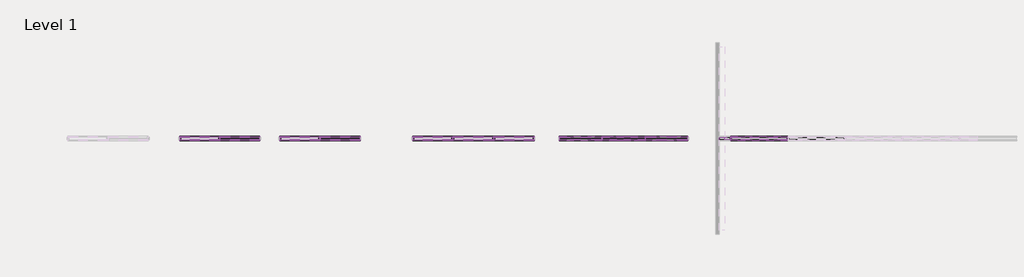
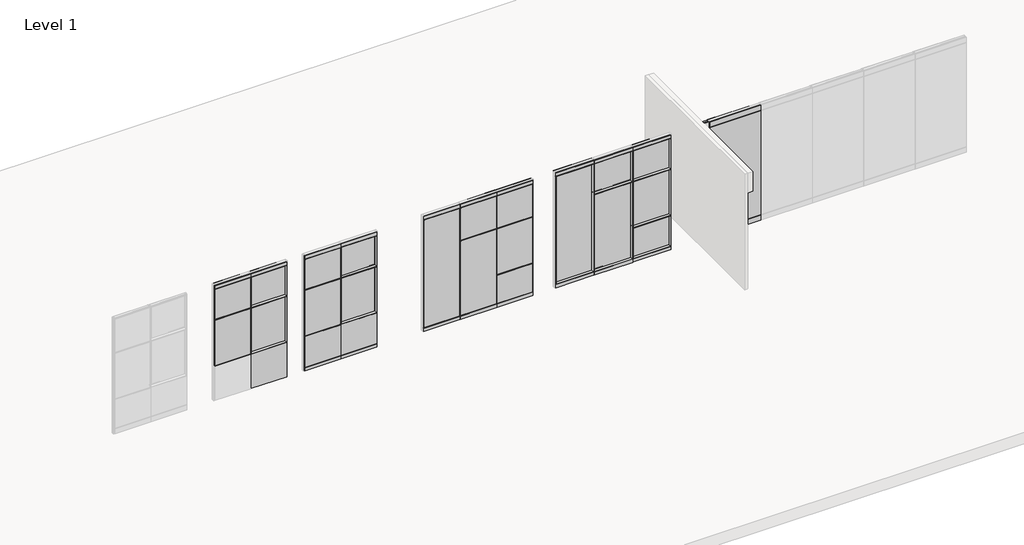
# One storey, part 12 of 22: 103 proxies.
"""IFC4 building model written with IfcOpenShell, lengths in millimetres."""

from ifc_helpers import new_model, si_unit, origin, place, context, project, spatial, transform, mapped, element, save
from components import fkc_8072fc11, fkn_5ed5fb2b, fascia_teknion_ceiling_and_base_fpb1_f6fada93, fascia_teknion_ceiling_and_base_fpb1_13b4bfed, fascia_teknion_ceiling_and_base_fpb1_c09701a2, fascia_teknion_ceiling_and_base_fpb1_836afdf3, fascia_teknion_ceiling_and_base_fpb1_db20a659, fascia_teknion_ceiling_and_base_fpb1_df58155e, fascia_teknion_ceiling_and_base_fpb1_1edef506, fascia_teknion_ceiling_and_base_fpb1_cd47c96b, fascia_teknion_ceiling_and_base_fpb1_2ed09321, fascia_teknion_ceiling_and_base_fpc_696d0f28, fascia_teknion_ceiling_and_base_fpc_aab47f0c, fascia_teknion_ceiling_and_base_fpc_957b990b, frame_teknion_horizontal_rail_5872ae1a, frame_teknion_horizontal_rail_46ee653b, frame_teknion_horizontal_rail_d9ddab7f, frame_teknion_horizontal_rail_74d06c48, frame_teknion_horizontal_rail_96f289ab, frame_teknion_horizontal_rail_84c226ef, full_84ced3e5, full_de6f7fca, full_double_glass_8244c30e, full_single_78f033fe, glass_fascia_d2a417b3, glass_fascia_74ba01bb, level_i_double_glass_59891672, level_i_single_glass_8a8042db, level_ii_d7c51a2e, level_ii_6986000c, level_ii_double_glass_cfeb0c75, level_ii_single_glass_14cafb3b, level_iii_double_glass_eeb2d2af, level_iii_single_glass_caffbde7, working_wall_monolithic_level_i_ddf61f7f, panel_fascia_teknion_mid_glass_level_i_f6f85d3a, working_wall_monolithic_level_i_49ea217e, panel_fascia_teknion_mid_glass_level_i_feadc1fd, segmented_level_i_double_glass_e7056d44, segmented_level_i_single_glass_277fe04a, segmented_level_ii_double_glass_1e1767e1, segmented_level_ii_single_glass_8e03ea76

model = new_model("IFC4")

# Units and contexts
model_context = context("Model", 3, world=origin())
ifc_project = project(units=[si_unit("LENGTHUNIT", "METRE", prefix="MILLI")], contexts=[model_context])

# Site, building, storey
site = spatial("IfcSite", under=ifc_project)
building = spatial("IfcBuilding", under=site)
storey = spatial("IfcBuildingStorey", under=building, Name="Level 1", Elevation=0.0)

# Proxies
placement = place(None, origin())
fkc_shape = fkc_8072fc11(model_context)
element("IfcBuildingElementProxy", 1, Name="Frame-Teknion-Altos-Base_Channel : FKC", ObjectType="Frame-Teknion-Altos-Base_Channel : FKC", at=placement, inside=storey, context=model_context, shape_type="MappedRepresentation", body=[
    mapped(fkc_shape, transform((3297.291666, 1812.351065, 0.0), x_axis=(-1.0, 0.0, 0.0), y_axis=(0.0, -1.0, 0.0), z_axis=(0.0, 0.0, 1.0))),
])
fkn_shape = fkn_5ed5fb2b(model_context)
element("IfcBuildingElementProxy", 2, Name="Frame-Teknion-Altos-Ceiling_Channel : FKN", ObjectType="Frame-Teknion-Altos-Ceiling_Channel : FKN", at=placement, inside=storey, context=model_context, shape_type="MappedRepresentation", body=[
    mapped(fkn_shape, transform((3360.791666, 1812.351065, 3048.0), x_axis=(-1.0, 0.0, 0.0), y_axis=(0.0, -1.0, 0.0), z_axis=(0.0, 0.0, 1.0))),
])
fascia_teknion_ceiling_and_base_fpb1_shape = fascia_teknion_ceiling_and_base_fpb1_f6fada93(model_context)
element("IfcBuildingElementProxy", 3, Name="Fascia-Teknion-Ceiling_and_Base : FPB1", ObjectType="Fascia-Teknion-Ceiling_and_Base : FPB1", at=placement, inside=storey, context=model_context, shape_type="MappedRepresentation", body=[
    mapped(fascia_teknion_ceiling_and_base_fpb1_shape, transform((4069.4615879, 1843.3402105, 15.875), x_axis=(1.0, 0.0, 0.0), y_axis=(0.0, 1.0, 0.0), z_axis=(0.0, 0.0, 1.0))),
])
fascia_teknion_ceiling_and_base_fpb1_2_shape = fascia_teknion_ceiling_and_base_fpb1_13b4bfed(model_context)
element("IfcBuildingElementProxy", 4, Name="Fascia-Teknion-Ceiling_and_Base : FPB1", ObjectType="Fascia-Teknion-Ceiling_and_Base : FPB1", at=placement, inside=storey, context=model_context, shape_type="MappedRepresentation", body=[
    mapped(fascia_teknion_ceiling_and_base_fpb1_2_shape, transform((4069.4615879, 1781.3642105, 15.875), x_axis=(1.0, 0.0, 0.0), y_axis=(0.0, 1.0, 0.0), z_axis=(0.0, 0.0, 1.0))),
])
fascia_teknion_ceiling_and_base_fpb1_3_shape = fascia_teknion_ceiling_and_base_fpb1_c09701a2(model_context)
element("IfcBuildingElementProxy", 5, Name="Fascia-Teknion-Ceiling_and_Base : FPB1", ObjectType="Fascia-Teknion-Ceiling_and_Base : FPB1", at=placement, inside=storey, context=model_context, shape_type="MappedRepresentation", body=[
    mapped(fascia_teknion_ceiling_and_base_fpb1_3_shape, transform((-6180.501085, 1862.357315, 15.875), x_axis=(1.0, 0.0, 0.0), y_axis=(0.0, 1.0, 0.0), z_axis=(0.0, 0.0, 1.0))),
])
element("IfcBuildingElementProxy", 6, Name="Fascia-Teknion-Ceiling_and_Base : FPB1", ObjectType="Fascia-Teknion-Ceiling_and_Base : FPB1", at=placement, inside=storey, context=model_context, shape_type="MappedRepresentation", body=[
    mapped(fascia_teknion_ceiling_and_base_fpb1_3_shape, transform((-5280.0909288, 1862.357315, 15.875), x_axis=(1.0, 0.0, 0.0), y_axis=(0.0, 1.0, 0.0), z_axis=(0.0, 0.0, 1.0))),
])
fascia_teknion_ceiling_and_base_fpb1_4_shape = fascia_teknion_ceiling_and_base_fpb1_836afdf3(model_context)
element("IfcBuildingElementProxy", 7, Name="Fascia-Teknion-Ceiling_and_Base : FPB1", ObjectType="Fascia-Teknion-Ceiling_and_Base : FPB1", at=placement, inside=storey, context=model_context, shape_type="MappedRepresentation", body=[
    mapped(fascia_teknion_ceiling_and_base_fpb1_4_shape, transform((-3216.5184902, 1762.344815, 15.875), x_axis=(1.0, 0.0, 0.0), y_axis=(0.0, 1.0, 0.0), z_axis=(0.0, 0.0, 1.0))),
])
element("IfcBuildingElementProxy", 8, Name="Fascia-Teknion-Ceiling_and_Base : FPB1", ObjectType="Fascia-Teknion-Ceiling_and_Base : FPB1", at=placement, inside=storey, context=model_context, shape_type="MappedRepresentation", body=[
    mapped(fascia_teknion_ceiling_and_base_fpb1_4_shape, transform((-3216.5184902, 1862.357315, 15.875), x_axis=(-1.0, 0.0, 0.0), y_axis=(0.0, -1.0, 0.0), z_axis=(0.0, 0.0, 1.0))),
])
element("IfcBuildingElementProxy", 9, Name="Fascia-Teknion-Ceiling_and_Base : FPB1", ObjectType="Fascia-Teknion-Ceiling_and_Base : FPB1", at=placement, inside=storey, context=model_context, shape_type="MappedRepresentation", body=[
    mapped(fascia_teknion_ceiling_and_base_fpb1_4_shape, transform((-1401.708334, 1762.344815, 15.875), x_axis=(1.0, 0.0, 0.0), y_axis=(0.0, 1.0, 0.0), z_axis=(0.0, 0.0, 1.0))),
])
element("IfcBuildingElementProxy", 10, Name="Fascia-Teknion-Ceiling_and_Base : FPB1", ObjectType="Fascia-Teknion-Ceiling_and_Base : FPB1", at=placement, inside=storey, context=model_context, shape_type="MappedRepresentation", body=[
    mapped(fascia_teknion_ceiling_and_base_fpb1_4_shape, transform((-1401.708334, 1862.357315, 15.875), x_axis=(-1.0, 0.0, 0.0), y_axis=(0.0, -1.0, 0.0), z_axis=(0.0, 0.0, 1.0))),
])
fascia_teknion_ceiling_and_base_fpb1_5_shape = fascia_teknion_ceiling_and_base_fpb1_db20a659(model_context)
element("IfcBuildingElementProxy", 11, Name="Fascia-Teknion-Ceiling_and_Base : FPB1", ObjectType="Fascia-Teknion-Ceiling_and_Base : FPB1", at=placement, inside=storey, context=model_context, shape_type="MappedRepresentation", body=[
    mapped(fascia_teknion_ceiling_and_base_fpb1_5_shape, transform((1043.6865879, 1762.344815, 15.875), x_axis=(1.0, 0.0, 0.0), y_axis=(0.0, 1.0, 0.0), z_axis=(0.0, 0.0, 1.0))),
])
element("IfcBuildingElementProxy", 12, Name="Fascia-Teknion-Ceiling_and_Base : FPB1", ObjectType="Fascia-Teknion-Ceiling_and_Base : FPB1", at=placement, inside=storey, context=model_context, shape_type="MappedRepresentation", body=[
    mapped(fascia_teknion_ceiling_and_base_fpb1_5_shape, transform((1043.6865879, 1862.357315, 15.875), x_axis=(-1.0, 0.0, 0.0), y_axis=(0.0, -1.0, 0.0), z_axis=(0.0, 0.0, 1.0))),
])
fascia_teknion_ceiling_and_base_fpb1_6_shape = fascia_teknion_ceiling_and_base_fpb1_df58155e(model_context)
element("IfcBuildingElementProxy", 13, Name="Fascia-Teknion-Ceiling_and_Base : FPB1", ObjectType="Fascia-Teknion-Ceiling_and_Base : FPB1", at=placement, inside=storey, context=model_context, shape_type="MappedRepresentation", body=[
    mapped(fascia_teknion_ceiling_and_base_fpb1_6_shape, transform((85.4815098, 1762.344815, 15.875), x_axis=(1.0, 0.0, 0.0), y_axis=(0.0, 1.0, 0.0), z_axis=(0.0, 0.0, 1.0))),
])
element("IfcBuildingElementProxy", 14, Name="Fascia-Teknion-Ceiling_and_Base : FPB1", ObjectType="Fascia-Teknion-Ceiling_and_Base : FPB1", at=placement, inside=storey, context=model_context, shape_type="MappedRepresentation", body=[
    mapped(fascia_teknion_ceiling_and_base_fpb1_6_shape, transform((85.4815098, 1862.357315, 15.875), x_axis=(-1.0, 0.0, 0.0), y_axis=(0.0, -1.0, 0.0), z_axis=(0.0, 0.0, 1.0))),
])
element("IfcBuildingElementProxy", 15, Name="Fascia-Teknion-Ceiling_and_Base : FPB1", ObjectType="Fascia-Teknion-Ceiling_and_Base : FPB1", at=placement, inside=storey, context=model_context, shape_type="MappedRepresentation", body=[
    mapped(fascia_teknion_ceiling_and_base_fpb1_6_shape, transform((2001.891666, 1762.344815, 15.875), x_axis=(1.0, 0.0, 0.0), y_axis=(0.0, 1.0, 0.0), z_axis=(0.0, 0.0, 1.0))),
])
element("IfcBuildingElementProxy", 16, Name="Fascia-Teknion-Ceiling_and_Base : FPB1", ObjectType="Fascia-Teknion-Ceiling_and_Base : FPB1", at=placement, inside=storey, context=model_context, shape_type="MappedRepresentation", body=[
    mapped(fascia_teknion_ceiling_and_base_fpb1_6_shape, transform((2001.891666, 1862.357315, 15.875), x_axis=(-1.0, 0.0, 0.0), y_axis=(0.0, -1.0, 0.0), z_axis=(0.0, 0.0, 1.0))),
])
fascia_teknion_ceiling_and_base_fpb1_7_shape = fascia_teknion_ceiling_and_base_fpb1_1edef506(model_context)
element("IfcBuildingElementProxy", 17, Name="Fascia-Teknion-Ceiling_and_Base : FPB1", ObjectType="Fascia-Teknion-Ceiling_and_Base : FPB1", at=placement, inside=storey, context=model_context, shape_type="MappedRepresentation", body=[
    mapped(fascia_teknion_ceiling_and_base_fpb1_7_shape, transform((-2309.1134121, 1762.344815, 15.875), x_axis=(1.0, 0.0, 0.0), y_axis=(0.0, 1.0, 0.0), z_axis=(0.0, 0.0, 1.0))),
])
element("IfcBuildingElementProxy", 18, Name="Fascia-Teknion-Ceiling_and_Base : FPB1", ObjectType="Fascia-Teknion-Ceiling_and_Base : FPB1", at=placement, inside=storey, context=model_context, shape_type="MappedRepresentation", body=[
    mapped(fascia_teknion_ceiling_and_base_fpb1_7_shape, transform((-2309.1134121, 1862.357315, 15.875), x_axis=(-1.0, 0.0, 0.0), y_axis=(0.0, -1.0, 0.0), z_axis=(0.0, 0.0, 1.0))),
])
fascia_teknion_ceiling_and_base_fpb1_8_shape = fascia_teknion_ceiling_and_base_fpb1_cd47c96b(model_context)
element("IfcBuildingElementProxy", 19, Name="Fascia-Teknion-Ceiling_and_Base : FPB1", ObjectType="Fascia-Teknion-Ceiling_and_Base : FPB1", at=placement, inside=storey, context=model_context, shape_type="MappedRepresentation", body=[
    mapped(fascia_teknion_ceiling_and_base_fpb1_8_shape, transform((-6180.501085, 1762.344815, 15.875), x_axis=(1.0, 0.0, 0.0), y_axis=(0.0, 1.0, 0.0), z_axis=(0.0, 0.0, 1.0))),
])
element("IfcBuildingElementProxy", 20, Name="Fascia-Teknion-Ceiling_and_Base : FPB1", ObjectType="Fascia-Teknion-Ceiling_and_Base : FPB1", at=placement, inside=storey, context=model_context, shape_type="MappedRepresentation", body=[
    mapped(fascia_teknion_ceiling_and_base_fpb1_8_shape, transform((-5280.0909288, 1762.344815, 15.875), x_axis=(1.0, 0.0, 0.0), y_axis=(0.0, 1.0, 0.0), z_axis=(0.0, 0.0, 1.0))),
])
element("IfcBuildingElementProxy", 21, Name="Fascia-Teknion-Ceiling_and_Base : FPC", ObjectType="Fascia-Teknion-Ceiling_and_Base : FPC", at=placement, inside=storey, context=model_context, shape_type="MappedRepresentation", body=[
    mapped(fascia_teknion_ceiling_and_base_fpb1_shape, transform((4069.4615879, 1843.3402105, 2900.045), x_axis=(1.0, 0.0, 0.0), y_axis=(0.0, 1.0, 0.0), z_axis=(0.0, 0.0, 1.0))),
])
element("IfcBuildingElementProxy", 22, Name="Fascia-Teknion-Ceiling_and_Base : FPC", ObjectType="Fascia-Teknion-Ceiling_and_Base : FPC", at=placement, inside=storey, context=model_context, shape_type="MappedRepresentation", body=[
    mapped(fascia_teknion_ceiling_and_base_fpb1_2_shape, transform((4069.4615879, 1781.3642105, 2900.045), x_axis=(1.0, 0.0, 0.0), y_axis=(0.0, 1.0, 0.0), z_axis=(0.0, 0.0, 1.0))),
])
element("IfcBuildingElementProxy", 23, Name="Fascia-Teknion-Ceiling_and_Base : FPC", ObjectType="Fascia-Teknion-Ceiling_and_Base : FPC", at=placement, inside=storey, context=model_context, shape_type="MappedRepresentation", body=[
    mapped(fascia_teknion_ceiling_and_base_fpb1_4_shape, transform((-3216.5184902, 1762.344815, 2950.845), x_axis=(1.0, 0.0, 0.0), y_axis=(0.0, 1.0, 0.0), z_axis=(0.0, 0.0, 1.0))),
])
element("IfcBuildingElementProxy", 24, Name="Fascia-Teknion-Ceiling_and_Base : FPC", ObjectType="Fascia-Teknion-Ceiling_and_Base : FPC", at=placement, inside=storey, context=model_context, shape_type="MappedRepresentation", body=[
    mapped(fascia_teknion_ceiling_and_base_fpb1_4_shape, transform((-1401.708334, 1762.344815, 2950.845), x_axis=(1.0, 0.0, 0.0), y_axis=(0.0, 1.0, 0.0), z_axis=(0.0, 0.0, 1.0))),
])
fascia_teknion_ceiling_and_base_fpb1_9_shape = fascia_teknion_ceiling_and_base_fpb1_2ed09321(model_context)
element("IfcBuildingElementProxy", 25, Name="Fascia-Teknion-Ceiling_and_Base : FPC", ObjectType="Fascia-Teknion-Ceiling_and_Base : FPC", at=placement, inside=storey, context=model_context, shape_type="MappedRepresentation", body=[
    mapped(fascia_teknion_ceiling_and_base_fpb1_9_shape, transform((-3216.5184902, 1862.357315, 2950.845), x_axis=(1.0, 0.0, 0.0), y_axis=(0.0, 1.0, 0.0), z_axis=(0.0, 0.0, 1.0))),
])
element("IfcBuildingElementProxy", 26, Name="Fascia-Teknion-Ceiling_and_Base : FPC", ObjectType="Fascia-Teknion-Ceiling_and_Base : FPC", at=placement, inside=storey, context=model_context, shape_type="MappedRepresentation", body=[
    mapped(fascia_teknion_ceiling_and_base_fpb1_9_shape, transform((-1401.708334, 1862.357315, 2950.845), x_axis=(1.0, 0.0, 0.0), y_axis=(0.0, 1.0, 0.0), z_axis=(0.0, 0.0, 1.0))),
])
element("IfcBuildingElementProxy", 27, Name="Fascia-Teknion-Ceiling_and_Base : FPC", ObjectType="Fascia-Teknion-Ceiling_and_Base : FPC", at=placement, inside=storey, context=model_context, shape_type="MappedRepresentation", body=[
    mapped(fascia_teknion_ceiling_and_base_fpb1_3_shape, transform((-6180.501085, 1862.357315, 2950.845), x_axis=(1.0, 0.0, 0.0), y_axis=(0.0, 1.0, 0.0), z_axis=(0.0, 0.0, 1.0))),
])
element("IfcBuildingElementProxy", 28, Name="Fascia-Teknion-Ceiling_and_Base : FPC", ObjectType="Fascia-Teknion-Ceiling_and_Base : FPC", at=placement, inside=storey, context=model_context, shape_type="MappedRepresentation", body=[
    mapped(fascia_teknion_ceiling_and_base_fpb1_3_shape, transform((-5280.0909288, 1862.357315, 2950.845), x_axis=(1.0, 0.0, 0.0), y_axis=(0.0, 1.0, 0.0), z_axis=(0.0, 0.0, 1.0))),
])
element("IfcBuildingElementProxy", 29, Name="Fascia-Teknion-Ceiling_and_Base : FPC", ObjectType="Fascia-Teknion-Ceiling_and_Base : FPC", at=placement, inside=storey, context=model_context, shape_type="MappedRepresentation", body=[
    mapped(fascia_teknion_ceiling_and_base_fpb1_3_shape, transform((-8415.701085, 1862.357315, 2950.845), x_axis=(1.0, 0.0, 0.0), y_axis=(0.0, 1.0, 0.0), z_axis=(0.0, 0.0, 1.0))),
])
element("IfcBuildingElementProxy", 30, Name="Fascia-Teknion-Ceiling_and_Base : FPC", ObjectType="Fascia-Teknion-Ceiling_and_Base : FPC", at=placement, inside=storey, context=model_context, shape_type="MappedRepresentation", body=[
    mapped(fascia_teknion_ceiling_and_base_fpb1_3_shape, transform((-7515.2909288, 1862.357315, 2950.845), x_axis=(1.0, 0.0, 0.0), y_axis=(0.0, 1.0, 0.0), z_axis=(0.0, 0.0, 1.0))),
])
element("IfcBuildingElementProxy", 31, Name="Fascia-Teknion-Ceiling_and_Base : FPC", ObjectType="Fascia-Teknion-Ceiling_and_Base : FPC", at=placement, inside=storey, context=model_context, shape_type="MappedRepresentation", body=[
    mapped(fascia_teknion_ceiling_and_base_fpb1_8_shape, transform((-6180.501085, 1762.344815, 2950.845), x_axis=(1.0, 0.0, 0.0), y_axis=(0.0, 1.0, 0.0), z_axis=(0.0, 0.0, 1.0))),
])
element("IfcBuildingElementProxy", 32, Name="Fascia-Teknion-Ceiling_and_Base : FPC", ObjectType="Fascia-Teknion-Ceiling_and_Base : FPC", at=placement, inside=storey, context=model_context, shape_type="MappedRepresentation", body=[
    mapped(fascia_teknion_ceiling_and_base_fpb1_8_shape, transform((-5280.0909288, 1762.344815, 2950.845), x_axis=(1.0, 0.0, 0.0), y_axis=(0.0, 1.0, 0.0), z_axis=(0.0, 0.0, 1.0))),
])
element("IfcBuildingElementProxy", 33, Name="Fascia-Teknion-Ceiling_and_Base : FPC", ObjectType="Fascia-Teknion-Ceiling_and_Base : FPC", at=placement, inside=storey, context=model_context, shape_type="MappedRepresentation", body=[
    mapped(fascia_teknion_ceiling_and_base_fpb1_8_shape, transform((-8415.701085, 1762.344815, 2950.845), x_axis=(1.0, 0.0, 0.0), y_axis=(0.0, 1.0, 0.0), z_axis=(0.0, 0.0, 1.0))),
])
element("IfcBuildingElementProxy", 34, Name="Fascia-Teknion-Ceiling_and_Base : FPC", ObjectType="Fascia-Teknion-Ceiling_and_Base : FPC", at=placement, inside=storey, context=model_context, shape_type="MappedRepresentation", body=[
    mapped(fascia_teknion_ceiling_and_base_fpb1_8_shape, transform((-7515.2909288, 1762.344815, 2950.845), x_axis=(1.0, 0.0, 0.0), y_axis=(0.0, 1.0, 0.0), z_axis=(0.0, 0.0, 1.0))),
])
element("IfcBuildingElementProxy", 35, Name="Fascia-Teknion-Ceiling_and_Base : FPC", ObjectType="Fascia-Teknion-Ceiling_and_Base : FPC", at=placement, inside=storey, context=model_context, shape_type="MappedRepresentation", body=[
    mapped(fascia_teknion_ceiling_and_base_fpb1_5_shape, transform((1043.6865879, 1762.344815, 2950.845), x_axis=(1.0, 0.0, 0.0), y_axis=(0.0, 1.0, 0.0), z_axis=(0.0, 0.0, 1.0))),
])
fascia_teknion_ceiling_and_base_fpc_shape = fascia_teknion_ceiling_and_base_fpc_696d0f28(model_context)
element("IfcBuildingElementProxy", 36, Name="Fascia-Teknion-Ceiling_and_Base : FPC", ObjectType="Fascia-Teknion-Ceiling_and_Base : FPC", at=placement, inside=storey, context=model_context, shape_type="MappedRepresentation", body=[
    mapped(fascia_teknion_ceiling_and_base_fpc_shape, transform((1043.6865879, 1862.357315, 2950.845), x_axis=(1.0, 0.0, 0.0), y_axis=(0.0, 1.0, 0.0), z_axis=(0.0, 0.0, 1.0))),
])
element("IfcBuildingElementProxy", 37, Name="Fascia-Teknion-Ceiling_and_Base : FPC", ObjectType="Fascia-Teknion-Ceiling_and_Base : FPC", at=placement, inside=storey, context=model_context, shape_type="MappedRepresentation", body=[
    mapped(fascia_teknion_ceiling_and_base_fpb1_6_shape, transform((85.4815098, 1762.344815, 2950.845), x_axis=(1.0, 0.0, 0.0), y_axis=(0.0, 1.0, 0.0), z_axis=(0.0, 0.0, 1.0))),
])
element("IfcBuildingElementProxy", 38, Name="Fascia-Teknion-Ceiling_and_Base : FPC", ObjectType="Fascia-Teknion-Ceiling_and_Base : FPC", at=placement, inside=storey, context=model_context, shape_type="MappedRepresentation", body=[
    mapped(fascia_teknion_ceiling_and_base_fpb1_6_shape, transform((2001.891666, 1762.344815, 2950.845), x_axis=(1.0, 0.0, 0.0), y_axis=(0.0, 1.0, 0.0), z_axis=(0.0, 0.0, 1.0))),
])
fascia_teknion_ceiling_and_base_fpc_2_shape = fascia_teknion_ceiling_and_base_fpc_aab47f0c(model_context)
element("IfcBuildingElementProxy", 39, Name="Fascia-Teknion-Ceiling_and_Base : FPC", ObjectType="Fascia-Teknion-Ceiling_and_Base : FPC", at=placement, inside=storey, context=model_context, shape_type="MappedRepresentation", body=[
    mapped(fascia_teknion_ceiling_and_base_fpc_2_shape, transform((85.4815098, 1862.357315, 2950.845), x_axis=(1.0, 0.0, 0.0), y_axis=(0.0, 1.0, 0.0), z_axis=(0.0, 0.0, 1.0))),
])
element("IfcBuildingElementProxy", 40, Name="Fascia-Teknion-Ceiling_and_Base : FPC", ObjectType="Fascia-Teknion-Ceiling_and_Base : FPC", at=placement, inside=storey, context=model_context, shape_type="MappedRepresentation", body=[
    mapped(fascia_teknion_ceiling_and_base_fpc_2_shape, transform((2001.891666, 1862.357315, 2950.845), x_axis=(1.0, 0.0, 0.0), y_axis=(0.0, 1.0, 0.0), z_axis=(0.0, 0.0, 1.0))),
])
element("IfcBuildingElementProxy", 41, Name="Fascia-Teknion-Ceiling_and_Base : FPC", ObjectType="Fascia-Teknion-Ceiling_and_Base : FPC", at=placement, inside=storey, context=model_context, shape_type="MappedRepresentation", body=[
    mapped(fascia_teknion_ceiling_and_base_fpb1_7_shape, transform((-2309.1134121, 1762.344815, 2950.845), x_axis=(1.0, 0.0, 0.0), y_axis=(0.0, 1.0, 0.0), z_axis=(0.0, 0.0, 1.0))),
])
fascia_teknion_ceiling_and_base_fpc_3_shape = fascia_teknion_ceiling_and_base_fpc_957b990b(model_context)
element("IfcBuildingElementProxy", 42, Name="Fascia-Teknion-Ceiling_and_Base : FPC", ObjectType="Fascia-Teknion-Ceiling_and_Base : FPC", at=placement, inside=storey, context=model_context, shape_type="MappedRepresentation", body=[
    mapped(fascia_teknion_ceiling_and_base_fpc_3_shape, transform((-2309.1134121, 1862.357315, 2950.845), x_axis=(1.0, 0.0, 0.0), y_axis=(0.0, 1.0, 0.0), z_axis=(0.0, 0.0, 1.0))),
])
frame_teknion_horizontal_rail_shape = frame_teknion_horizontal_rail_5872ae1a(model_context)
element("IfcBuildingElementProxy", 43, Name="Frame-Teknion-Horizontal_Rail : FPKK", ObjectType="Frame-Teknion-Horizontal_Rail : FPKK", at=placement, inside=storey, context=model_context, shape_type="MappedRepresentation", body=[
    mapped(frame_teknion_horizontal_rail_shape, transform((-3216.5184902, 1812.351065, 100.33), x_axis=(1.0, 0.0, 0.0), y_axis=(0.0, 1.0, 0.0), z_axis=(0.0, 0.0, 1.0))),
])
element("IfcBuildingElementProxy", 44, Name="Frame-Teknion-Horizontal_Rail : FPKK", ObjectType="Frame-Teknion-Horizontal_Rail : FPKK", at=placement, inside=storey, context=model_context, shape_type="MappedRepresentation", body=[
    mapped(frame_teknion_horizontal_rail_shape, transform((-3216.5184902, 1812.351065, 2947.67), x_axis=(1.0, 0.0, 0.0), y_axis=(0.0, 1.0, 0.0), z_axis=(0.0, 0.0, 1.0))),
])
element("IfcBuildingElementProxy", 45, Name="Frame-Teknion-Horizontal_Rail : FPKK", ObjectType="Frame-Teknion-Horizontal_Rail : FPKK", at=placement, inside=storey, context=model_context, shape_type="MappedRepresentation", body=[
    mapped(frame_teknion_horizontal_rail_shape, transform((-1401.708334, 1812.351065, 100.33), x_axis=(1.0, 0.0, 0.0), y_axis=(0.0, 1.0, 0.0), z_axis=(0.0, 0.0, 1.0))),
])
element("IfcBuildingElementProxy", 46, Name="Frame-Teknion-Horizontal_Rail : FPKK", ObjectType="Frame-Teknion-Horizontal_Rail : FPKK", at=placement, inside=storey, context=model_context, shape_type="MappedRepresentation", body=[
    mapped(frame_teknion_horizontal_rail_shape, transform((-1401.708334, 1812.351065, 862.33), x_axis=(1.0, 0.0, 0.0), y_axis=(0.0, 1.0, 0.0), z_axis=(0.0, 0.0, 1.0))),
])
element("IfcBuildingElementProxy", 47, Name="Frame-Teknion-Horizontal_Rail : FPKK", ObjectType="Frame-Teknion-Horizontal_Rail : FPKK", at=placement, inside=storey, context=model_context, shape_type="MappedRepresentation", body=[
    mapped(frame_teknion_horizontal_rail_shape, transform((-1401.708334, 1812.351065, 2081.53), x_axis=(1.0, 0.0, 0.0), y_axis=(0.0, 1.0, 0.0), z_axis=(0.0, 0.0, 1.0))),
])
element("IfcBuildingElementProxy", 48, Name="Frame-Teknion-Horizontal_Rail : FPKK", ObjectType="Frame-Teknion-Horizontal_Rail : FPKK", at=placement, inside=storey, context=model_context, shape_type="MappedRepresentation", body=[
    mapped(frame_teknion_horizontal_rail_shape, transform((-1401.708334, 1812.351065, 2947.67), x_axis=(1.0, 0.0, 0.0), y_axis=(0.0, 1.0, 0.0), z_axis=(0.0, 0.0, 1.0))),
])
element("IfcBuildingElementProxy", 49, Name="Frame-Teknion-Horizontal_Rail : FPKK", ObjectType="Frame-Teknion-Horizontal_Rail : FPKK", at=placement, inside=storey, context=model_context, shape_type="MappedRepresentation", body=[
    mapped(frame_teknion_horizontal_rail_shape, transform((-8415.701085, 1812.351065, 2136.775), x_axis=(1.0, 0.0, 0.0), y_axis=(0.0, 1.0, 0.0), z_axis=(0.0, 0.0, 1.0))),
])
element("IfcBuildingElementProxy", 50, Name="Frame-Teknion-Horizontal_Rail : FPKK", ObjectType="Frame-Teknion-Horizontal_Rail : FPKK", at=placement, inside=storey, context=model_context, shape_type="MappedRepresentation", body=[
    mapped(frame_teknion_horizontal_rail_shape, transform((-6180.501085, 1812.351065, 917.575), x_axis=(1.0, 0.0, 0.0), y_axis=(0.0, 1.0, 0.0), z_axis=(0.0, 0.0, 1.0))),
])
element("IfcBuildingElementProxy", 51, Name="Frame-Teknion-Horizontal_Rail : FPKK", ObjectType="Frame-Teknion-Horizontal_Rail : FPKK", at=placement, inside=storey, context=model_context, shape_type="MappedRepresentation", body=[
    mapped(frame_teknion_horizontal_rail_shape, transform((-6180.501085, 1812.351065, 2136.775), x_axis=(1.0, 0.0, 0.0), y_axis=(0.0, 1.0, 0.0), z_axis=(0.0, 0.0, 1.0))),
])
element("IfcBuildingElementProxy", 52, Name="Frame-Teknion-Horizontal_Rail : FPKK", ObjectType="Frame-Teknion-Horizontal_Rail : FPKK", at=placement, inside=storey, context=model_context, shape_type="MappedRepresentation", body=[
    mapped(frame_teknion_horizontal_rail_shape, transform((-7515.2909288, 1812.351065, 917.575), x_axis=(1.0, 0.0, 0.0), y_axis=(0.0, 1.0, 0.0), z_axis=(0.0, 0.0, 1.0))),
])
element("IfcBuildingElementProxy", 53, Name="Frame-Teknion-Horizontal_Rail : FPKK", ObjectType="Frame-Teknion-Horizontal_Rail : FPKK", at=placement, inside=storey, context=model_context, shape_type="MappedRepresentation", body=[
    mapped(frame_teknion_horizontal_rail_shape, transform((-7515.2909288, 1812.351065, 2136.775), x_axis=(1.0, 0.0, 0.0), y_axis=(0.0, 1.0, 0.0), z_axis=(0.0, 0.0, 1.0))),
])
element("IfcBuildingElementProxy", 54, Name="Frame-Teknion-Horizontal_Rail : FPKK", ObjectType="Frame-Teknion-Horizontal_Rail : FPKK", at=placement, inside=storey, context=model_context, shape_type="MappedRepresentation", body=[
    mapped(frame_teknion_horizontal_rail_shape, transform((-5280.0909288, 1812.351065, 917.575), x_axis=(1.0, 0.0, 0.0), y_axis=(0.0, 1.0, 0.0), z_axis=(0.0, 0.0, 1.0))),
])
element("IfcBuildingElementProxy", 55, Name="Frame-Teknion-Horizontal_Rail : FPKK", ObjectType="Frame-Teknion-Horizontal_Rail : FPKK", at=placement, inside=storey, context=model_context, shape_type="MappedRepresentation", body=[
    mapped(frame_teknion_horizontal_rail_shape, transform((-5280.0909288, 1812.351065, 2136.775), x_axis=(1.0, 0.0, 0.0), y_axis=(0.0, 1.0, 0.0), z_axis=(0.0, 0.0, 1.0))),
])
element("IfcBuildingElementProxy", 56, Name="Frame-Teknion-Horizontal_Rail : FPKK", ObjectType="Frame-Teknion-Horizontal_Rail : FPKK", at=placement, inside=storey, context=model_context, shape_type="MappedRepresentation", body=[
    mapped(frame_teknion_horizontal_rail_shape, transform((-6180.501085, 1812.351065, 2947.543), x_axis=(1.0, 0.0, 0.0), y_axis=(0.0, 1.0, 0.0), z_axis=(0.0, 0.0, 1.0))),
])
element("IfcBuildingElementProxy", 57, Name="Frame-Teknion-Horizontal_Rail : FPKK", ObjectType="Frame-Teknion-Horizontal_Rail : FPKK", at=placement, inside=storey, context=model_context, shape_type="MappedRepresentation", body=[
    mapped(frame_teknion_horizontal_rail_shape, transform((-5280.0909288, 1812.351065, 2947.543), x_axis=(1.0, 0.0, 0.0), y_axis=(0.0, 1.0, 0.0), z_axis=(0.0, 0.0, 1.0))),
])
element("IfcBuildingElementProxy", 58, Name="Frame-Teknion-Horizontal_Rail : FPKK", ObjectType="Frame-Teknion-Horizontal_Rail : FPKK", at=placement, inside=storey, context=model_context, shape_type="MappedRepresentation", body=[
    mapped(frame_teknion_horizontal_rail_shape, transform((-8415.701085, 1812.351065, 2947.543), x_axis=(1.0, 0.0, 0.0), y_axis=(0.0, 1.0, 0.0), z_axis=(0.0, 0.0, 1.0))),
])
element("IfcBuildingElementProxy", 59, Name="Frame-Teknion-Horizontal_Rail : FPKK", ObjectType="Frame-Teknion-Horizontal_Rail : FPKK", at=placement, inside=storey, context=model_context, shape_type="MappedRepresentation", body=[
    mapped(frame_teknion_horizontal_rail_shape, transform((-7515.2909288, 1812.351065, 2947.543), x_axis=(1.0, 0.0, 0.0), y_axis=(0.0, 1.0, 0.0), z_axis=(0.0, 0.0, 1.0))),
])
element("IfcBuildingElementProxy", 60, Name="Frame-Teknion-Horizontal_Rail : FPKK", ObjectType="Frame-Teknion-Horizontal_Rail : FPKK", at=placement, inside=storey, context=model_context, shape_type="MappedRepresentation", body=[
    mapped(frame_teknion_horizontal_rail_shape, transform((-6180.501085, 1812.351065, 100.457), x_axis=(1.0, 0.0, 0.0), y_axis=(0.0, 1.0, 0.0), z_axis=(0.0, 0.0, 1.0))),
])
element("IfcBuildingElementProxy", 61, Name="Frame-Teknion-Horizontal_Rail : FPKK", ObjectType="Frame-Teknion-Horizontal_Rail : FPKK", at=placement, inside=storey, context=model_context, shape_type="MappedRepresentation", body=[
    mapped(frame_teknion_horizontal_rail_shape, transform((-5280.0909288, 1812.351065, 100.457), x_axis=(1.0, 0.0, 0.0), y_axis=(0.0, 1.0, 0.0), z_axis=(0.0, 0.0, 1.0))),
])
frame_teknion_horizontal_rail_2_shape = frame_teknion_horizontal_rail_46ee653b(model_context)
element("IfcBuildingElementProxy", 62, Name="Frame-Teknion-Horizontal_Rail : FPKK", ObjectType="Frame-Teknion-Horizontal_Rail : FPKK", at=placement, inside=storey, context=model_context, shape_type="MappedRepresentation", body=[
    mapped(frame_teknion_horizontal_rail_2_shape, transform((-2309.1134121, 1812.351065, 100.33), x_axis=(1.0, 0.0, 0.0), y_axis=(0.0, 1.0, 0.0), z_axis=(0.0, 0.0, 1.0))),
])
element("IfcBuildingElementProxy", 63, Name="Frame-Teknion-Horizontal_Rail : FPKK", ObjectType="Frame-Teknion-Horizontal_Rail : FPKK", at=placement, inside=storey, context=model_context, shape_type="MappedRepresentation", body=[
    mapped(frame_teknion_horizontal_rail_2_shape, transform((-2309.1134121, 1812.351065, 2947.67), x_axis=(1.0, 0.0, 0.0), y_axis=(0.0, 1.0, 0.0), z_axis=(0.0, 0.0, 1.0))),
])
frame_teknion_horizontal_rail_3_shape = frame_teknion_horizontal_rail_d9ddab7f(model_context)
element("IfcBuildingElementProxy", 64, Name="Frame-Teknion-Horizontal_Rail : FPKK", ObjectType="Frame-Teknion-Horizontal_Rail : FPKK", at=placement, inside=storey, context=model_context, shape_type="MappedRepresentation", body=[
    mapped(frame_teknion_horizontal_rail_3_shape, transform((85.4815098, 1812.351065, 100.33), x_axis=(1.0, 0.0, 0.0), y_axis=(0.0, 1.0, 0.0), z_axis=(0.0, 0.0, 1.0))),
])
element("IfcBuildingElementProxy", 65, Name="Frame-Teknion-Horizontal_Rail : FPKK", ObjectType="Frame-Teknion-Horizontal_Rail : FPKK", at=placement, inside=storey, context=model_context, shape_type="MappedRepresentation", body=[
    mapped(frame_teknion_horizontal_rail_3_shape, transform((85.4815098, 1812.351065, 2947.67), x_axis=(1.0, 0.0, 0.0), y_axis=(0.0, 1.0, 0.0), z_axis=(0.0, 0.0, 1.0))),
])
element("IfcBuildingElementProxy", 66, Name="Frame-Teknion-Horizontal_Rail : FPKK", ObjectType="Frame-Teknion-Horizontal_Rail : FPKK", at=placement, inside=storey, context=model_context, shape_type="MappedRepresentation", body=[
    mapped(frame_teknion_horizontal_rail_3_shape, transform((2001.891666, 1812.351065, 100.33), x_axis=(1.0, 0.0, 0.0), y_axis=(0.0, 1.0, 0.0), z_axis=(0.0, 0.0, 1.0))),
])
element("IfcBuildingElementProxy", 67, Name="Frame-Teknion-Horizontal_Rail : FPKK", ObjectType="Frame-Teknion-Horizontal_Rail : FPKK", at=placement, inside=storey, context=model_context, shape_type="MappedRepresentation", body=[
    mapped(frame_teknion_horizontal_rail_3_shape, transform((2001.891666, 1812.351065, 913.13), x_axis=(1.0, 0.0, 0.0), y_axis=(0.0, 1.0, 0.0), z_axis=(0.0, 0.0, 1.0))),
])
element("IfcBuildingElementProxy", 68, Name="Frame-Teknion-Horizontal_Rail : FPKK", ObjectType="Frame-Teknion-Horizontal_Rail : FPKK", at=placement, inside=storey, context=model_context, shape_type="MappedRepresentation", body=[
    mapped(frame_teknion_horizontal_rail_3_shape, transform((2001.891666, 1812.351065, 2132.33), x_axis=(1.0, 0.0, 0.0), y_axis=(0.0, 1.0, 0.0), z_axis=(0.0, 0.0, 1.0))),
])
element("IfcBuildingElementProxy", 69, Name="Frame-Teknion-Horizontal_Rail : FPKK", ObjectType="Frame-Teknion-Horizontal_Rail : FPKK", at=placement, inside=storey, context=model_context, shape_type="MappedRepresentation", body=[
    mapped(frame_teknion_horizontal_rail_3_shape, transform((2001.891666, 1812.351065, 2947.67), x_axis=(1.0, 0.0, 0.0), y_axis=(0.0, 1.0, 0.0), z_axis=(0.0, 0.0, 1.0))),
])
frame_teknion_horizontal_rail_4_shape = frame_teknion_horizontal_rail_74d06c48(model_context)
element("IfcBuildingElementProxy", 70, Name="Frame-Teknion-Horizontal_Rail : FPKK", ObjectType="Frame-Teknion-Horizontal_Rail : FPKK", at=placement, inside=storey, context=model_context, shape_type="MappedRepresentation", body=[
    mapped(frame_teknion_horizontal_rail_4_shape, transform((1043.6865879, 1812.351065, 100.33), x_axis=(1.0, 0.0, 0.0), y_axis=(0.0, 1.0, 0.0), z_axis=(0.0, 0.0, 1.0))),
])
element("IfcBuildingElementProxy", 71, Name="Frame-Teknion-Horizontal_Rail : FPKK", ObjectType="Frame-Teknion-Horizontal_Rail : FPKK", at=placement, inside=storey, context=model_context, shape_type="MappedRepresentation", body=[
    mapped(frame_teknion_horizontal_rail_4_shape, transform((1043.6865879, 1812.351065, 2947.67), x_axis=(1.0, 0.0, 0.0), y_axis=(0.0, 1.0, 0.0), z_axis=(0.0, 0.0, 1.0))),
])
frame_teknion_horizontal_rail_5_shape = frame_teknion_horizontal_rail_96f289ab(model_context)
element("IfcBuildingElementProxy", 72, Name="Frame-Teknion-Horizontal_Rail : FPKK", ObjectType="Frame-Teknion-Horizontal_Rail : FPKK", at=placement, inside=storey, context=model_context, shape_type="MappedRepresentation", body=[
    mapped(frame_teknion_horizontal_rail_5_shape, transform((5345.8115879, 1812.3522105, 151.257), x_axis=(1.0, 0.0, 0.0), y_axis=(0.0, 1.0, 0.0), z_axis=(0.0, 0.0, 1.0))),
])
element("IfcBuildingElementProxy", 73, Name="Frame-Teknion-Horizontal_Rail : FPKK", ObjectType="Frame-Teknion-Horizontal_Rail : FPKK", at=placement, inside=storey, context=model_context, shape_type="MappedRepresentation", body=[
    mapped(frame_teknion_horizontal_rail_5_shape, transform((4069.4615879, 1812.3522105, 151.257), x_axis=(1.0, 0.0, 0.0), y_axis=(0.0, 1.0, 0.0), z_axis=(0.0, 0.0, 1.0))),
])
element("IfcBuildingElementProxy", 74, Name="Frame-Teknion-Horizontal_Rail : FPKK", ObjectType="Frame-Teknion-Horizontal_Rail : FPKK", at=placement, inside=storey, context=model_context, shape_type="MappedRepresentation", body=[
    mapped(frame_teknion_horizontal_rail_5_shape, transform((4069.4615879, 1812.3522105, 2898.3305), x_axis=(1.0, 0.0, 0.0), y_axis=(0.0, 1.0, 0.0), z_axis=(0.0, 0.0, 1.0))),
])
frame_teknion_horizontal_rail_6_shape = frame_teknion_horizontal_rail_84c226ef(model_context)
element("IfcBuildingElementProxy", 75, Name="Frame-Teknion-Horizontal_Rail : FPKK", ObjectType="Frame-Teknion-Horizontal_Rail : FPKK", at=placement, inside=storey, context=model_context, shape_type="MappedRepresentation", body=[
    mapped(frame_teknion_horizontal_rail_6_shape, transform((3297.291666, 1812.351065, 1485.8890638), x_axis=(-1.0, 0.0, 0.0), y_axis=(0.0, -1.0, 0.0), z_axis=(0.0, 0.0, 1.0))),
])
full_shape = full_84ced3e5(model_context)
element("IfcBuildingElementProxy", 76, Name="Panel-Fascia-Teknion-Altos-Standard : Full", ObjectType="Panel-Fascia-Teknion-Altos-Standard : Full", at=placement, inside=storey, context=model_context, shape_type="MappedRepresentation", body=[
    mapped(full_shape, transform((4069.4615879, 1852.8652105, 151.257), x_axis=(1.0, 0.0, 0.0), y_axis=(0.0, 1.0, 0.0), z_axis=(0.0, 0.0, 1.0))),
])
full_2_shape = full_de6f7fca(model_context)
element("IfcBuildingElementProxy", 77, Name="Panel-Fascia-Teknion-Altos-Standard : Full", ObjectType="Panel-Fascia-Teknion-Altos-Standard : Full", at=placement, inside=storey, context=model_context, shape_type="MappedRepresentation", body=[
    mapped(full_2_shape, transform((4069.4615879, 1771.8392105, 151.257), x_axis=(1.0, 0.0, 0.0), y_axis=(0.0, 1.0, 0.0), z_axis=(0.0, 0.0, 1.0))),
])
full_double_glass_shape = full_double_glass_8244c30e(model_context)
element("IfcBuildingElementProxy", 78, Name="Panel-Fascia-Teknion-Altos-Double_Glass : Full-Double Glass", ObjectType="Panel-Fascia-Teknion-Altos-Double_Glass : Full-Double Glass", at=placement, inside=storey, context=model_context, shape_type="MappedRepresentation", body=[
    mapped(full_double_glass_shape, transform((-3216.5184902, 1812.351065, 100.33), x_axis=(1.0, 0.0, 0.0), y_axis=(0.0, 1.0, 0.0), z_axis=(0.0, 0.0, 1.0))),
])
full_single_shape = full_single_78f033fe(model_context)
element("IfcBuildingElementProxy", 79, Name="Panel-Fascia-Teknion-Altos-Single_Glass : Full-Single", ObjectType="Panel-Fascia-Teknion-Altos-Single_Glass : Full-Single", at=placement, inside=storey, context=model_context, shape_type="MappedRepresentation", body=[
    mapped(full_single_shape, transform((85.4815098, 1812.351065, 100.33), x_axis=(1.0, 0.0, 0.0), y_axis=(0.0, 1.0, 0.0), z_axis=(0.0, 0.0, 1.0))),
])
glass_fascia_shape = glass_fascia_d2a417b3(model_context)
element("IfcBuildingElementProxy", 80, Name="Panel-Fascia-Teknion-Altos-Glass : Glass Fascia", ObjectType="Panel-Fascia-Teknion-Altos-Glass : Glass Fascia", at=placement, inside=storey, context=model_context, shape_type="MappedRepresentation", body=[
    mapped(glass_fascia_shape, transform((-8415.701085, 1812.351065, 2136.775), x_axis=(1.0, 0.0, 0.0), y_axis=(0.0, 1.0, 0.0), z_axis=(0.0, 0.0, 1.0))),
])
element("IfcBuildingElementProxy", 81, Name="Panel-Fascia-Teknion-Altos-Glass : Glass Fascia", ObjectType="Panel-Fascia-Teknion-Altos-Glass : Glass Fascia", at=placement, inside=storey, context=model_context, shape_type="MappedRepresentation", body=[
    mapped(glass_fascia_shape, transform((-6180.501085, 1812.351065, 2136.775), x_axis=(1.0, 0.0, 0.0), y_axis=(0.0, 1.0, 0.0), z_axis=(0.0, 0.0, 1.0))),
])
glass_fascia_2_shape = glass_fascia_74ba01bb(model_context)
element("IfcBuildingElementProxy", 82, Name="Panel-Fascia-Teknion-Altos-Glass : Glass Fascia", ObjectType="Panel-Fascia-Teknion-Altos-Glass : Glass Fascia", at=placement, inside=storey, context=model_context, shape_type="MappedRepresentation", body=[
    mapped(glass_fascia_2_shape, transform((-7515.2909288, 1812.351065, 2136.775), x_axis=(1.0, 0.0, 0.0), y_axis=(0.0, 1.0, 0.0), z_axis=(0.0, 0.0, 1.0))),
])
element("IfcBuildingElementProxy", 83, Name="Panel-Fascia-Teknion-Altos-Glass : Glass Fascia", ObjectType="Panel-Fascia-Teknion-Altos-Glass : Glass Fascia", at=placement, inside=storey, context=model_context, shape_type="MappedRepresentation", body=[
    mapped(glass_fascia_2_shape, transform((-5280.0909288, 1812.351065, 2136.775), x_axis=(1.0, 0.0, 0.0), y_axis=(0.0, 1.0, 0.0), z_axis=(0.0, 0.0, 1.0))),
])
level_i_double_glass_shape = level_i_double_glass_59891672(model_context)
element("IfcBuildingElementProxy", 84, Name="Panel-Fascia-Teknion-Altos-Double_Glass : Level I-Double Glass", ObjectType="Panel-Fascia-Teknion-Altos-Double_Glass : Level I-Double Glass", at=placement, inside=storey, context=model_context, shape_type="MappedRepresentation", body=[
    mapped(level_i_double_glass_shape, transform((-1401.708334, 1812.351065, 100.33), x_axis=(1.0, 0.0, 0.0), y_axis=(0.0, 1.0, 0.0), z_axis=(0.0, 0.0, 1.0))),
])
level_i_single_glass_shape = level_i_single_glass_8a8042db(model_context)
element("IfcBuildingElementProxy", 85, Name="Panel-Fascia-Teknion-Altos-Single_Glass : Level I-Single Glass", ObjectType="Panel-Fascia-Teknion-Altos-Single_Glass : Level I-Single Glass", at=placement, inside=storey, context=model_context, shape_type="MappedRepresentation", body=[
    mapped(level_i_single_glass_shape, transform((2001.891666, 1812.351065, 100.33), x_axis=(1.0, 0.0, 0.0), y_axis=(0.0, 1.0, 0.0), z_axis=(0.0, 0.0, 1.0))),
])
level_ii_shape = level_ii_d7c51a2e(model_context)
element("IfcBuildingElementProxy", 86, Name="Panel-Fascia-Teknion-Altos-Mid_Glass : Level II", ObjectType="Panel-Fascia-Teknion-Altos-Mid_Glass : Level II", at=placement, inside=storey, context=model_context, shape_type="MappedRepresentation", body=[
    mapped(level_ii_shape, transform((-8415.701085, 1812.351065, 917.575), x_axis=(1.0, 0.0, 0.0), y_axis=(0.0, 1.0, 0.0), z_axis=(0.0, 0.0, 1.0))),
])
element("IfcBuildingElementProxy", 87, Name="Panel-Fascia-Teknion-Altos-Mid_Glass : Level II", ObjectType="Panel-Fascia-Teknion-Altos-Mid_Glass : Level II", at=placement, inside=storey, context=model_context, shape_type="MappedRepresentation", body=[
    mapped(level_ii_shape, transform((-6180.501085, 1812.351065, 917.575), x_axis=(1.0, 0.0, 0.0), y_axis=(0.0, 1.0, 0.0), z_axis=(0.0, 0.0, 1.0))),
])
level_ii_2_shape = level_ii_6986000c(model_context)
element("IfcBuildingElementProxy", 88, Name="Panel-Fascia-Teknion-Altos-Mid_Glass : Level II", ObjectType="Panel-Fascia-Teknion-Altos-Mid_Glass : Level II", at=placement, inside=storey, context=model_context, shape_type="MappedRepresentation", body=[
    mapped(level_ii_2_shape, transform((-7515.2909288, 1812.351065, 917.575), x_axis=(1.0, 0.0, 0.0), y_axis=(0.0, 1.0, 0.0), z_axis=(0.0, 0.0, 1.0))),
])
element("IfcBuildingElementProxy", 89, Name="Panel-Fascia-Teknion-Altos-Mid_Glass : Level II", ObjectType="Panel-Fascia-Teknion-Altos-Mid_Glass : Level II", at=placement, inside=storey, context=model_context, shape_type="MappedRepresentation", body=[
    mapped(level_ii_2_shape, transform((-5280.0909288, 1812.351065, 917.575), x_axis=(1.0, 0.0, 0.0), y_axis=(0.0, 1.0, 0.0), z_axis=(0.0, 0.0, 1.0))),
])
level_ii_double_glass_shape = level_ii_double_glass_cfeb0c75(model_context)
element("IfcBuildingElementProxy", 90, Name="Panel-Fascia-Teknion-Altos-Double_Glass : Level II-Double Glass", ObjectType="Panel-Fascia-Teknion-Altos-Double_Glass : Level II-Double Glass", at=placement, inside=storey, context=model_context, shape_type="MappedRepresentation", body=[
    mapped(level_ii_double_glass_shape, transform((-1401.708334, 1812.351065, 862.33), x_axis=(1.0, 0.0, 0.0), y_axis=(0.0, 1.0, 0.0), z_axis=(0.0, 0.0, 1.0))),
])
level_ii_single_glass_shape = level_ii_single_glass_14cafb3b(model_context)
element("IfcBuildingElementProxy", 91, Name="Panel-Fascia-Teknion-Altos-Single_Glass : Level II-Single Glass", ObjectType="Panel-Fascia-Teknion-Altos-Single_Glass : Level II-Single Glass", at=placement, inside=storey, context=model_context, shape_type="MappedRepresentation", body=[
    mapped(level_ii_single_glass_shape, transform((2001.891666, 1812.351065, 913.13), x_axis=(1.0, 0.0, 0.0), y_axis=(0.0, 1.0, 0.0), z_axis=(0.0, 0.0, 1.0))),
])
level_iii_double_glass_shape = level_iii_double_glass_eeb2d2af(model_context)
element("IfcBuildingElementProxy", 92, Name="Panel-Fascia-Teknion-Altos-Double_Glass : Level III-Double Glass", ObjectType="Panel-Fascia-Teknion-Altos-Double_Glass : Level III-Double Glass", at=placement, inside=storey, context=model_context, shape_type="MappedRepresentation", body=[
    mapped(level_iii_double_glass_shape, transform((-1401.708334, 1812.351065, 2081.53), x_axis=(1.0, 0.0, 0.0), y_axis=(0.0, 1.0, 0.0), z_axis=(0.0, 0.0, 1.0))),
])
level_iii_single_glass_shape = level_iii_single_glass_caffbde7(model_context)
element("IfcBuildingElementProxy", 93, Name="Panel-Fascia-Teknion-Altos-Single_Glass : Level III-Single Glass", ObjectType="Panel-Fascia-Teknion-Altos-Single_Glass : Level III-Single Glass", at=placement, inside=storey, context=model_context, shape_type="MappedRepresentation", body=[
    mapped(level_iii_single_glass_shape, transform((2001.891666, 1812.351065, 2132.33), x_axis=(1.0, 0.0, 0.0), y_axis=(0.0, 1.0, 0.0), z_axis=(0.0, 0.0, 1.0))),
])
working_wall_monolithic_level_i_shape = working_wall_monolithic_level_i_ddf61f7f(model_context)
element("IfcBuildingElementProxy", 94, Name="Panel-Fascia-Teknion-Mid_Glass : Level I", ObjectType="Panel-Fascia-Teknion-Mid_Glass : Level I", at=placement, inside=storey, context=model_context, shape_type="MappedRepresentation", body=[
    mapped(working_wall_monolithic_level_i_shape, transform((-7515.2909288, 1852.832315, 12.7), x_axis=(1.0, 0.0, 0.0), y_axis=(0.0, 1.0, 0.0), z_axis=(0.0, 0.0, 1.0))),
])
panel_fascia_teknion_mid_glass_level_i_shape = panel_fascia_teknion_mid_glass_level_i_f6f85d3a(model_context)
element("IfcBuildingElementProxy", 95, Name="Panel-Fascia-Teknion-Mid_Glass : Level I", ObjectType="Panel-Fascia-Teknion-Mid_Glass : Level I", at=placement, inside=storey, context=model_context, shape_type="MappedRepresentation", body=[
    mapped(panel_fascia_teknion_mid_glass_level_i_shape, transform((-6180.501085, 1852.832315, 100.457), x_axis=(1.0, 0.0, 0.0), y_axis=(0.0, 1.0, 0.0), z_axis=(0.0, 0.0, 1.0))),
])
element("IfcBuildingElementProxy", 96, Name="Panel-Fascia-Teknion-Mid_Glass : Level I", ObjectType="Panel-Fascia-Teknion-Mid_Glass : Level I", at=placement, inside=storey, context=model_context, shape_type="MappedRepresentation", body=[
    mapped(panel_fascia_teknion_mid_glass_level_i_shape, transform((-5280.0909288, 1852.832315, 100.457), x_axis=(1.0, 0.0, 0.0), y_axis=(0.0, 1.0, 0.0), z_axis=(0.0, 0.0, 1.0))),
])
working_wall_monolithic_level_i_2_shape = working_wall_monolithic_level_i_49ea217e(model_context)
element("IfcBuildingElementProxy", 97, Name="Panel-Fascia-Teknion-Mid_Glass : Level I", ObjectType="Panel-Fascia-Teknion-Mid_Glass : Level I", at=placement, inside=storey, context=model_context, shape_type="MappedRepresentation", body=[
    mapped(working_wall_monolithic_level_i_2_shape, transform((-7515.2909288, 1771.869815, 12.7), x_axis=(1.0, 0.0, 0.0), y_axis=(0.0, 1.0, 0.0), z_axis=(0.0, 0.0, 1.0))),
])
panel_fascia_teknion_mid_glass_level_i_2_shape = panel_fascia_teknion_mid_glass_level_i_feadc1fd(model_context)
element("IfcBuildingElementProxy", 98, Name="Panel-Fascia-Teknion-Mid_Glass : Level I", ObjectType="Panel-Fascia-Teknion-Mid_Glass : Level I", at=placement, inside=storey, context=model_context, shape_type="MappedRepresentation", body=[
    mapped(panel_fascia_teknion_mid_glass_level_i_2_shape, transform((-6180.501085, 1771.869815, 100.457), x_axis=(1.0, 0.0, 0.0), y_axis=(0.0, 1.0, 0.0), z_axis=(0.0, 0.0, 1.0))),
])
element("IfcBuildingElementProxy", 99, Name="Panel-Fascia-Teknion-Mid_Glass : Level I", ObjectType="Panel-Fascia-Teknion-Mid_Glass : Level I", at=placement, inside=storey, context=model_context, shape_type="MappedRepresentation", body=[
    mapped(panel_fascia_teknion_mid_glass_level_i_2_shape, transform((-5280.0909288, 1771.869815, 100.457), x_axis=(1.0, 0.0, 0.0), y_axis=(0.0, 1.0, 0.0), z_axis=(0.0, 0.0, 1.0))),
])
segmented_level_i_double_glass_shape = segmented_level_i_double_glass_e7056d44(model_context)
element("IfcBuildingElementProxy", 100, Name="Panel-Fascia-Teknion-Altos-Double_Glass : Segmented_Level I-Double Glass", ObjectType="Panel-Fascia-Teknion-Altos-Double_Glass : Segmented_Level I-Double Glass", at=placement, inside=storey, context=model_context, shape_type="MappedRepresentation", body=[
    mapped(segmented_level_i_double_glass_shape, transform((-2309.1134121, 1812.351065, 100.33), x_axis=(1.0, 0.0, 0.0), y_axis=(0.0, 1.0, 0.0), z_axis=(0.0, 0.0, 1.0))),
])
segmented_level_i_single_glass_shape = segmented_level_i_single_glass_277fe04a(model_context)
element("IfcBuildingElementProxy", 101, Name="Panel-Fascia-Teknion-Altos-Single_Glass : Segmented_Level I-Single Glass", ObjectType="Panel-Fascia-Teknion-Altos-Single_Glass : Segmented_Level I-Single Glass", at=placement, inside=storey, context=model_context, shape_type="MappedRepresentation", body=[
    mapped(segmented_level_i_single_glass_shape, transform((1043.6865879, 1812.351065, 100.33), x_axis=(1.0, 0.0, 0.0), y_axis=(0.0, 1.0, 0.0), z_axis=(0.0, 0.0, 1.0))),
])
segmented_level_ii_double_glass_shape = segmented_level_ii_double_glass_1e1767e1(model_context)
element("IfcBuildingElementProxy", 102, Name="Panel-Fascia-Teknion-Altos-Double_Glass : Segmented_Level II-Double Glass", ObjectType="Panel-Fascia-Teknion-Altos-Double_Glass : Segmented_Level II-Double Glass", at=placement, inside=storey, context=model_context, shape_type="MappedRepresentation", body=[
    mapped(segmented_level_ii_double_glass_shape, transform((-2309.1134121, 1812.351065, 2081.53), x_axis=(1.0, 0.0, 0.0), y_axis=(0.0, 1.0, 0.0), z_axis=(0.0, 0.0, 1.0))),
])
segmented_level_ii_single_glass_shape = segmented_level_ii_single_glass_8e03ea76(model_context)
element("IfcBuildingElementProxy", 103, Name="Panel-Fascia-Teknion-Altos-Single_Glass : Segmented_Level II-Single Glass", ObjectType="Panel-Fascia-Teknion-Altos-Single_Glass : Segmented_Level II-Single Glass", at=placement, inside=storey, context=model_context, shape_type="MappedRepresentation", body=[
    mapped(segmented_level_ii_single_glass_shape, transform((1043.6865879, 1812.351065, 2132.33), x_axis=(1.0, 0.0, 0.0), y_axis=(0.0, 1.0, 0.0), z_axis=(0.0, 0.0, 1.0))),
])

save(model, "model.ifc")
